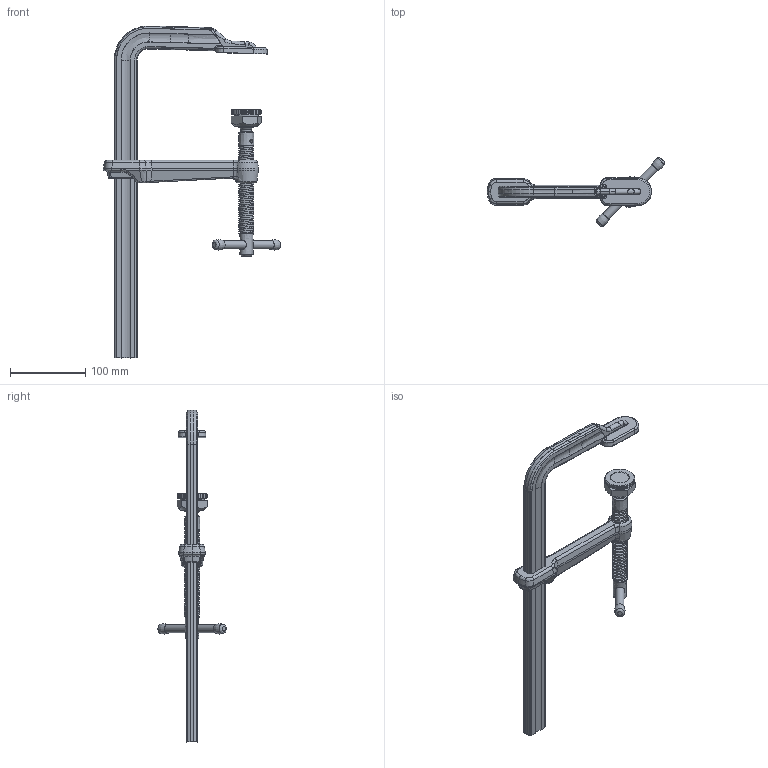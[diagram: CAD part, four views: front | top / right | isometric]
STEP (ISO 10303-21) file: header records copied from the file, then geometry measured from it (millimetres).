
FILE_DESCRIPTION( ('This file contains a STEP AP42 implementation' ,'as created by ZW3D STEP Interface translator.') ,'2;1' );
FILE_NAME( 'GSM30.stp' ,'20 630.1046 2', (''), ('ZWCAD Software Co.'), 'Version 1.0', 'ZW3D to STEP translator', '' );
FILE_SCHEMA(('AUTOMOTIVE_DESIGN'));
Length unit declared in the file: millimetre
Products named in the file (11): 0; GSM30; Festbügel_CSG30; Gleitbügel; 3100705b_Gleitb_kpl_SG14M; 3001156b; 3100123_Spindel_kpl_SGM; 3000047_Spindel_SGM; 3101541a_Druckplatte kpl 2-Lini; 3007071_Bolzen_HLZ; 3008298b
Assembly tree (9 placements, depth 5):
  0
  GSM30
    Festbügel_CSG30
    Gleitbügel
      3100705b_Gleitb_kpl_SG14M
        3001156b
        3100123_Spindel_kpl_SGM
          3000047_Spindel_SGM
        3101541a_Druckplatte kpl 2-Lini
          3007071_Bolzen_HLZ
          3008298b
Bounding box: 235.33 x 91.11 x 439.92 mm (x, y, z)
Volume: 414308.9 mm3; surface area: 114173.9 mm2
Topology: 8 solids, 9 shells, 468 faces, 1250 edges, 939 vertices
Faces by surface type: bspline 468
Entity records: 137433 total; most frequent: CARTESIAN_POINT 130208, ORIENTED_EDGE 2193, EDGE_CURVE 1101, B_SPLINE_CURVE_WITH_KNOTS 784, VERTEX_POINT 654, EDGE_LOOP 486, FACE_OUTER_BOUND 468, ADVANCED_FACE 468
